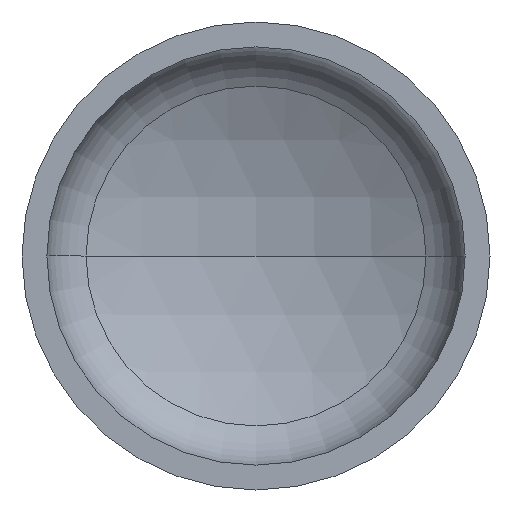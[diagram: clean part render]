
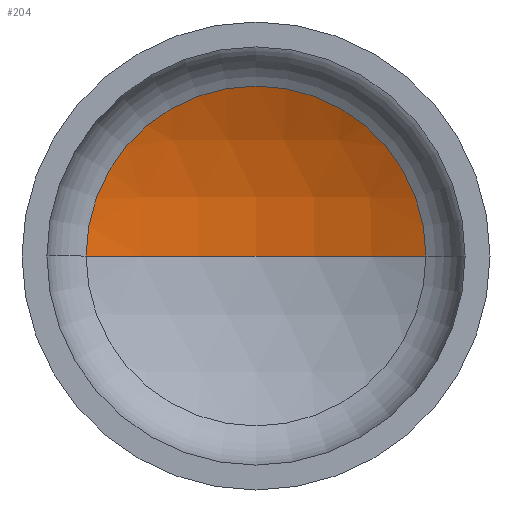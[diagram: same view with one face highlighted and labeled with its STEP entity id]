
A CAD part, front view. The second image highlights one B-rep face of the part: STEP entity #204.
In plain terms, the highlighted spherical face has radius 406 mm.
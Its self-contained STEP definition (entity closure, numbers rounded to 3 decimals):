
#1 = DIRECTION ( 'NONE',  ( -1., 0., 0. ) ) ;
#2 = ORIENTED_EDGE ( 'NONE', *, *, #333, .T. ) ;
#7 = AXIS2_PLACEMENT_3D ( 'NONE', #173, #175, #349 ) ;
#15 = AXIS2_PLACEMENT_3D ( 'NONE', #391, #201, #370 ) ;
#16 = EDGE_LOOP ( 'NONE', ( #51, #40, #2 ) ) ;
#33 = AXIS2_PLACEMENT_3D ( 'NONE', #252, #373, #169 ) ;
#40 = ORIENTED_EDGE ( 'NONE', *, *, #381, .T. ) ;
#51 = ORIENTED_EDGE ( 'NONE', *, *, #376, .F. ) ;
#73 = AXIS2_PLACEMENT_3D ( 'NONE', #405, #186, #1 ) ;
#95 = VERTEX_POINT ( 'NONE', #215 ) ;
#116 = VERTEX_POINT ( 'NONE', #218 ) ;
#144 = SPHERICAL_SURFACE ( 'NONE', #73, 406. ) ;
#169 = DIRECTION ( 'NONE',  ( 1., 0., 0. ) ) ;
#173 = CARTESIAN_POINT ( 'NONE',  ( 0., -207.204, 0. ) ) ;
#174 = CIRCLE ( 'NONE', #33, 184.433 ) ;
#175 = DIRECTION ( 'NONE',  ( 0., 0., -1. ) ) ;
#186 = DIRECTION ( 'NONE',  ( 0., 0., -1. ) ) ;
#201 = DIRECTION ( 'NONE',  ( 0., 0., 1. ) ) ;
#204 = ADVANCED_FACE ( 'NONE', ( #336 ), #144, .F. ) ;
#206 = CARTESIAN_POINT ( 'NONE',  ( -184.433, 154.487, 0. ) ) ;
#215 = CARTESIAN_POINT ( 'NONE',  ( 0., 198.796, 0. ) ) ;
#218 = CARTESIAN_POINT ( 'NONE',  ( 184.433, 154.487, 0. ) ) ;
#228 = CIRCLE ( 'NONE', #7, 406. ) ;
#238 = CIRCLE ( 'NONE', #15, 406. ) ;
#252 = CARTESIAN_POINT ( 'NONE',  ( 0., 154.487, 0. ) ) ;
#302 = VERTEX_POINT ( 'NONE', #206 ) ;
#333 = EDGE_CURVE ( 'NONE', #116, #302, #174, .T. ) ;
#336 = FACE_OUTER_BOUND ( 'NONE', #16, .T. ) ;
#349 = DIRECTION ( 'NONE',  ( -1., 0., 0. ) ) ;
#370 = DIRECTION ( 'NONE',  ( 1., 0., 0. ) ) ;
#373 = DIRECTION ( 'NONE',  ( 0., -1., 0. ) ) ;
#376 = EDGE_CURVE ( 'NONE', #95, #302, #238, .T. ) ;
#381 = EDGE_CURVE ( 'NONE', #95, #116, #228, .T. ) ;
#391 = CARTESIAN_POINT ( 'NONE',  ( 0., -207.204, 0. ) ) ;
#405 = CARTESIAN_POINT ( 'NONE',  ( 0., -207.204, 0. ) ) ;
